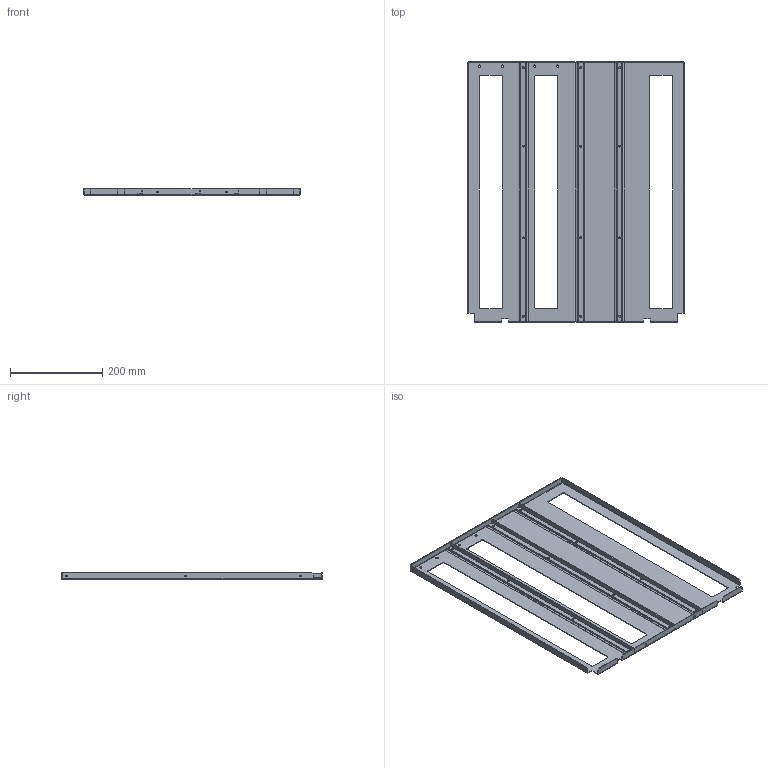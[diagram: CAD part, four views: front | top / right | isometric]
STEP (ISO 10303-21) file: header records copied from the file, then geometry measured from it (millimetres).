
FILE_DESCRIPTION(('CAx-IF Rec.Pracs.---Model Styling and Organization---1.2---2011-12-15','CAx-IF Rec.Pracs.---Geometric and Assembly Validation Properties---4.1---2014-06-16','CAx-IF Rec.Pracs.---PMI Polyline Presentation---2.0---2013-05-24'),'2;1');
FILE_NAME('R5M2W12M1BP.stp','2021-05-05T12:42:19+03:00',(''),(''),'STEP Interface 4.4 by CT CoreTechnologie','3D_Evolution4.4 by CT CoreTechnologie','');
FILE_SCHEMA(('AUTOMOTIVE_DESIGN { 1 0 10303 214 1 1 1 1 }'));
Length unit declared in the file: millimetre
Products named in the file (4): R5M2W12M1BP; RB.1899.00.00.0 ÑÁ_-01; RB.1899.00.02.0_-01; RB.1899.00.01.0_-01
Assembly tree (5 placements, depth 3):
  R5M2W12M1BP
    RB.1899.00.00.0 ÑÁ_-01
      RB.1899.00.02.0_-01  x3
      RB.1899.00.01.0_-01
Bounding box: 469 x 566.5 x 15 mm (x, y, z)
Surface area: 511114.4 mm2 (no closed solid volume)
Topology: 0 solids, 4 shells, 240 faces, 626 edges, 400 vertices
Faces by surface type: plane 140, cylinder 96, bspline 4
Entity records: 6137 total; most frequent: CARTESIAN_POINT 1088, DIRECTION 1018, ORIENTED_EDGE 996, EDGE_CURVE 498, VECTOR 358, LINE 358, AXIS2_PLACEMENT_3D 330, VERTEX_POINT 320
